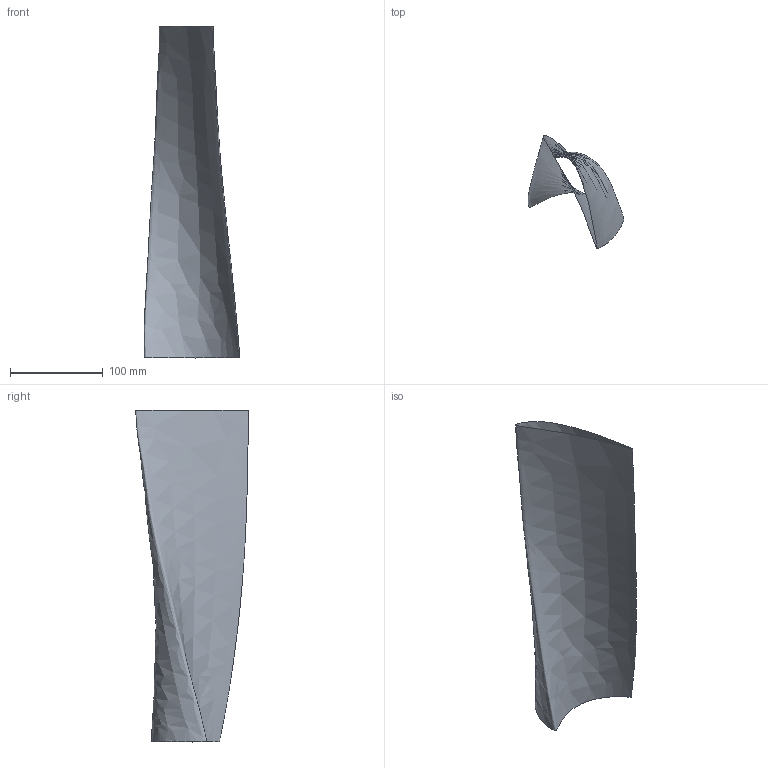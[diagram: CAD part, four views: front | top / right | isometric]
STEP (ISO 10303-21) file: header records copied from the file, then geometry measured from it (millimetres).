
FILE_DESCRIPTION(('Open CASCADE Model'),'2;1');
FILE_NAME('Open CASCADE Shape Model','2007-04-16T16:51:28',('Author'),( 'Open CASCADE'),'Open CASCADE STEP processor 5.2','Open CASCADE 5.2' ,'Unknown');
FILE_SCHEMA(('AUTOMOTIVE_DESIGN_CC2 { 1 2 10303 214 -1 1 5 4 }'));
Length unit declared in the file: millimetre
Products named in the file (3): Cle633250917749532512; Cle633252152661195808; Cle633252152414140560
Bounding box: 103.31 x 121.35 x 357.99 mm (x, y, z)
Surface area: 98549.9 mm2 (no closed solid volume)
Topology: 0 solids, 1 shells, 1 faces, 5 edges, 4 vertices
Faces by surface type: bspline 1
Entity records: 1446 total; most frequent: CARTESIAN_POINT 1364, DIRECTION 6, B_SPLINE_CURVE_WITH_KNOTS 5, ORIENTED_EDGE 4, PCURVE 4, DEFINITIONAL_REPRESENTATION 4, LINE 4, VECTOR 4
